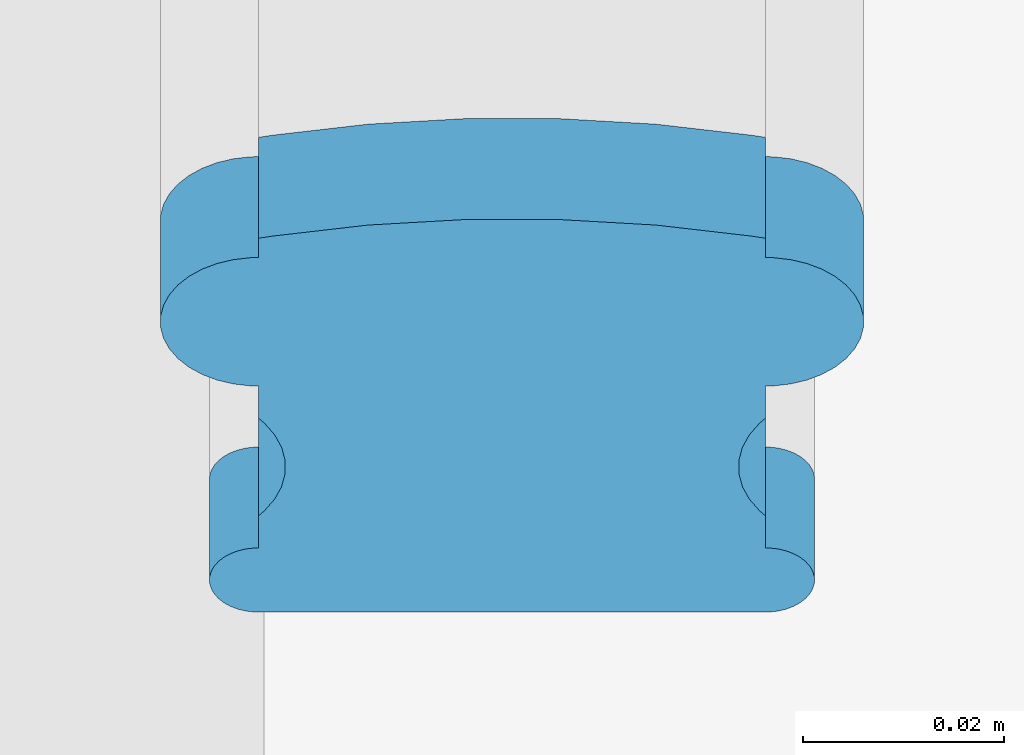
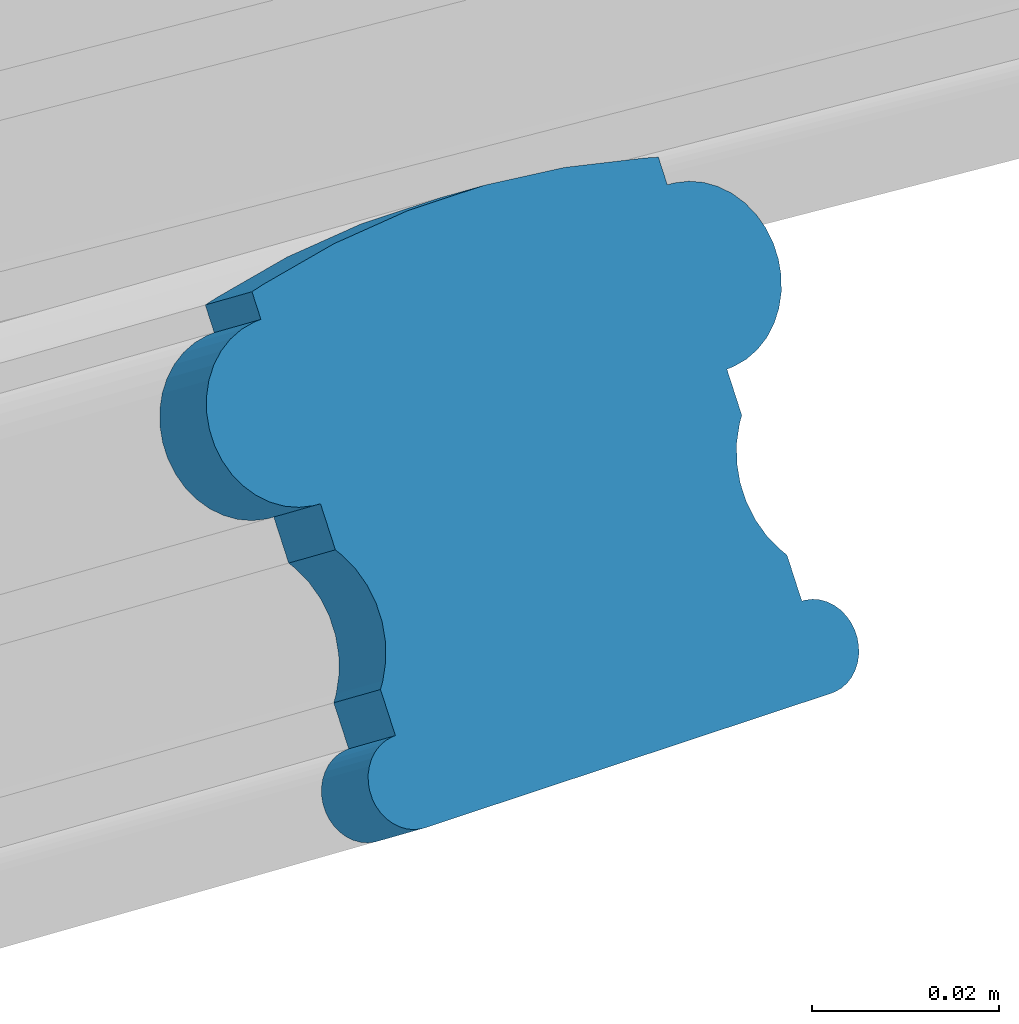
# One storey, part 19 of 77: 1 building element part, 1 element without a shape of its own.
"""IFC2X3 building model written with IfcOpenShell, lengths in inches."""

from ifc_helpers import new_model, entity, si_unit, converted_unit, derived_unit, money_unit, direction, frame, origin_with_axes, place, context, subcontext, project, spatial, faceted_brep, material, type_object, element, aggregate, save


model = new_model("IFC2X3")

# Units and contexts
model_context = context("Model", 3, precision=0.000393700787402, world=origin_with_axes(), true_north=direction((0.0, 1.0)))
body_context = subcontext(model_context, "Body", "Model", "MODEL_VIEW")
ifc_project = project(units=[converted_unit("LENGTHUNIT", "INCH", entity("IfcPositiveLengthMeasure", 0.0254), si_unit("LENGTHUNIT", "METRE"), dimensions=[1, 0, 0, 0, 0, 0, 0]), converted_unit("AREAUNIT", "SQUARE_FOOT", entity("IfcPositiveLengthMeasure", 0.09290304), si_unit("AREAUNIT", "SQUARE_METRE"), dimensions=[2, 0, 0, 0, 0, 0, 0]), si_unit("PLANEANGLEUNIT", "RADIAN"), si_unit("SOLIDANGLEUNIT", "STERADIAN"), money_unit("USD"), converted_unit("TIMEUNIT", "Year", entity("IfcTimeMeasure", 31556926.0), si_unit("TIMEUNIT", "SECOND"), dimensions=[0, 0, 1, 0, 0, 0, 0]), si_unit("MASSUNIT", "GRAM", prefix="KILO"), si_unit("THERMODYNAMICTEMPERATUREUNIT", "DEGREE_CELSIUS"), si_unit("LUMINOUSINTENSITYUNIT", "LUMEN"), si_unit("ENERGYUNIT", "JOULE", prefix="MEGA"), derived_unit("THERMALCONDUCTANCEUNIT", [(si_unit("POWERUNIT", "WATT"), 1), (si_unit("LENGTHUNIT", "METRE"), -1), (si_unit("THERMODYNAMICTEMPERATUREUNIT", "KELVIN"), -1)]), derived_unit("SPECIFICHEATCAPACITYUNIT", [(si_unit("ENERGYUNIT", "JOULE"), 1), (si_unit("MASSUNIT", "GRAM", prefix="KILO"), -1), (si_unit("THERMODYNAMICTEMPERATUREUNIT", "KELVIN"), -1)]), derived_unit("MASSDENSITYUNIT", [(si_unit("MASSUNIT", "GRAM", prefix="KILO"), 1), (si_unit("VOLUMEUNIT", "CUBIC_METRE"), -1)])], contexts=[model_context])

# Site, building, storey
site_placement = place(None, origin_with_axes())
site = spatial("IfcSite", under=ifc_project, at=site_placement, Name="Site", CompositionType="ELEMENT")
building_placement = place(site_placement, origin_with_axes())
building = spatial("IfcBuilding", under=site, at=building_placement, Name="Building", CompositionType="ELEMENT")
storey_placement = place(building_placement, frame((0.0, 0.0, 127.952755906), z_axis=(0.0, 0.0, 1.0), x_axis=(1.0, 0.0, 0.0)))
storey = spatial("IfcBuildingStorey", under=building, at=storey_placement, Name="Second Floor", CompositionType="ELEMENT", Elevation=127.953)

# Railing, building element part
railing_type = type_object("IfcRailingType", Name="Railing Type", PredefinedType="NOTDEFINED")
railing_placement = place(storey_placement, frame((643.989643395, 72.4015497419, -92.1176470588), z_axis=(0.0, 0.0, 1.0), x_axis=(-1.0, 0.0, 0.0)))
railing = element("IfcRailing", 1, at=railing_placement, inside=storey, type_object=railing_type, Name="RAILING - 001", PredefinedType="NOTDEFINED")
ifc_material = material(Name="Wood - Structural")
building_element_part_placement = place(railing_placement, origin_with_axes())
building_element_part = element("IfcBuildingElementPart", 2, at=building_element_part_placement, material=ifc_material, Name="Wood - Structural", context=body_context, shape_type="Brep", body=[
    faceted_brep([(-0.97830768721, 0.075407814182, 75.7856225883), (-0.97830768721, 0.150815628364, 75.6888922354), (-0.97830768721, 0.545149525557, 75.996302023), (-0.97830768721, 0.469741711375, 76.0930323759), (-1.03685591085, 0.0666488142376, 75.7968583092), (-1.40666376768, 0.0240545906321, 75.8514966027), (-1.78074756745, 0.00267612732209, 75.8789201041), (-2.15626030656, 0.00267612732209, 75.8789201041), (-2.53034410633, 0.0240545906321, 75.8514966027), (-2.90015196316, 0.0666488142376, 75.7968583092), (-2.95870018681, 0.0754078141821, 75.7856225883), (-2.95870018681, 0.150815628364, 75.6888922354), (-2.99223804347, 0.151772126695, 75.6876652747), (-3.05829472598, 0.159380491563, 75.6779055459), (-3.12132527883, 0.174366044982, 75.6586826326), (-3.17941455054, 0.196273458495, 75.6305806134), (-3.230797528, 0.224437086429, 75.5944533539), (-3.27391296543, 0.258001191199, 75.5513985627), (-3.30745082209, 0.295945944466, 75.5027244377), (-3.33039206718, 0.337118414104, 75.4499099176), (-3.34203964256, 0.380267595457, 75.3945597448), (-3.34203964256, 0.424082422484, 75.3383557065), (-3.33039206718, 0.467231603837, 75.2830055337), (-3.30745082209, 0.508404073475, 75.2301910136), (-3.27391296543, 0.546348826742, 75.1815168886), (-3.230797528, 0.579912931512, 75.1384620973), (-3.17941455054, 0.608076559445, 75.1023348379), (-3.12132527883, 0.629983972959, 75.0742328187), (-3.05829472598, 0.644969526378, 75.0550099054), (-2.99223804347, 0.652577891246, 75.0452501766), (-2.95870018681, 0.653534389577, 75.0440232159), (-2.95870018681, 0.77921407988, 74.8828059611), (-2.93612331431, 0.798547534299, 74.8580057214), (-2.89633013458, 0.843569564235, 74.8002531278), (-2.86910999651, 0.892421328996, 74.7375878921), (-2.85528997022, 0.943618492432, 74.6719140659), (-2.85528997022, 0.995605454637, 74.605227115), (-2.86910999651, 1.04680261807, 74.5395532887), (-2.89633013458, 1.09565438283, 74.4768880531), (-2.93612331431, 1.14067641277, 74.4191354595), (-2.95870018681, 1.16000986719, 74.3943352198), (-2.95870018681, 1.28568955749, 74.2331179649), (-2.97546911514, 1.28616780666, 74.2325044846), (-3.0084974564, 1.28997198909, 74.2276246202), (-3.04001273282, 1.2974647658, 74.2180131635), (-3.06905736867, 1.30841847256, 74.203962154), (-3.0947488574, 1.32250028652, 74.1858985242), (-3.11630657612, 1.33928233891, 74.1643711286), (-3.13307550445, 1.35825471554, 74.1400340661), (-3.14454612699, 1.37884095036, 74.113626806), (-3.15036991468, 1.40041554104, 74.0859517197), (-3.15036991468, 1.42232295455, 74.0578497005), (-3.14454612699, 1.44389754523, 74.0301746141), (-3.13307550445, 1.46448378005, 74.0037673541), (-3.11630657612, 1.48345615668, 73.9794302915), (-3.0947488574, 1.50023820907, 73.9579028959), (-3.06905736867, 1.51432002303, 73.9398392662), (-3.04001273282, 1.52527372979, 73.9257882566), (-3.0084974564, 1.5327665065, 73.9161768), (-2.97546911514, 1.53657068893, 73.9112969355), (-2.95870018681, 1.5370489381, 73.9106834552), (-0.97830768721, 1.5370489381, 73.9106834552), (-0.96153875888, 1.53657068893, 73.9112969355), (-0.92851041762, 1.5327665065, 73.9161768), (-0.896995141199, 1.52527372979, 73.9257882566), (-0.867950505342, 1.51432002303, 73.9398392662), (-0.842259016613, 1.50023820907, 73.9579028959), (-0.820701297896, 1.48345615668, 73.9794302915), (-0.803932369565, 1.46448378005, 74.0037673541), (-0.792461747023, 1.44389754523, 74.0301746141), (-0.786637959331, 1.42232295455, 74.0578497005), (-0.786637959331, 1.40041554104, 74.0859517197), (-0.792461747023, 1.37884095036, 74.113626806), (-0.803932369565, 1.35825471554, 74.1400340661), (-0.820701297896, 1.33928233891, 74.1643711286), (-0.842259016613, 1.32250028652, 74.1858985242), (-0.867950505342, 1.30841847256, 74.203962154), (-0.896995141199, 1.2974647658, 74.2180131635), (-0.92851041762, 1.28997198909, 74.2276246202), (-0.96153875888, 1.28616780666, 74.2325044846), (-0.97830768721, 1.28568955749, 74.2331179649), (-0.97830768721, 1.16000986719, 74.3943352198), (-1.00088455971, 1.14067641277, 74.4191354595), (-1.04067773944, 1.09565438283, 74.4768880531), (-1.06789787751, 1.04680261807, 74.5395532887), (-1.08171790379, 0.995605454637, 74.605227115), (-1.08171790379, 0.943618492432, 74.6719140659), (-1.06789787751, 0.892421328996, 74.7375878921), (-1.04067773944, 0.843569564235, 74.8002531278), (-1.00088455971, 0.798547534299, 74.8580057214), (-0.97830768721, 0.77921407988, 74.8828059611), (-0.97830768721, 0.653534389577, 75.0440232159), (-0.944769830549, 0.652577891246, 75.0452501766), (-0.878713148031, 0.644969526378, 75.0550099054), (-0.815682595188, 0.629983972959, 75.0742328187), (-0.757593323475, 0.608076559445, 75.1023348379), (-0.706210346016, 0.579912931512, 75.1384620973), (-0.663094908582, 0.546348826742, 75.1815168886), (-0.629557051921, 0.508404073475, 75.2301910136), (-0.606615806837, 0.467231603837, 75.2830055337), (-0.594968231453, 0.424082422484, 75.3383557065), (-0.594968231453, 0.380267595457, 75.3945597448), (-0.606615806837, 0.337118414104, 75.4499099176), (-0.629557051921, 0.295945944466, 75.5027244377), (-0.663094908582, 0.258001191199, 75.5513985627), (-0.706210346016, 0.224437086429, 75.5944533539), (-0.757593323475, 0.196273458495, 75.6305806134), (-0.815682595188, 0.174366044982, 75.6586826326), (-0.878713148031, 0.159380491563, 75.6779055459), (-0.944769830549, 0.151772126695, 75.6876652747), (-0.944769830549, 0.546106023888, 75.9950750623), (-0.878713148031, 0.553714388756, 75.9853153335), (-0.815682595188, 0.568699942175, 75.9660924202), (-0.757593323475, 0.590607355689, 75.937990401), (-0.706210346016, 0.618770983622, 75.9018631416), (-0.663094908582, 0.652335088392, 75.8588083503), (-0.629557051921, 0.69027984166, 75.8101342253), (-0.606615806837, 0.731452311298, 75.7573197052), (-0.594968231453, 0.77460149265, 75.7019695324), (-0.594968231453, 0.818416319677, 75.6457654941), (-0.606615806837, 0.86156550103, 75.5904153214), (-0.629557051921, 0.902737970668, 75.5376008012), (-0.663094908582, 0.940682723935, 75.4889266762), (-0.706210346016, 0.974246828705, 75.445871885), (-0.757593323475, 1.00241045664, 75.4097446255), (-0.815682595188, 1.02431787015, 75.3816426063), (-0.878713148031, 1.03930342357, 75.362419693), (-0.944769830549, 1.04691178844, 75.3526599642), (-0.97830768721, 1.04786828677, 75.3514330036), (-0.97830768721, 1.17354797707, 75.1902157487), (-1.00088455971, 1.19288143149, 75.165415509), (-1.04067773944, 1.23790346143, 75.1076629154), (-1.06789787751, 1.28675522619, 75.0449976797), (-1.08171790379, 1.33795238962, 74.9793238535), (-1.08171790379, 1.38993935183, 74.9126369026), (-1.06789787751, 1.44113651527, 74.8469630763), (-1.04067773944, 1.48998828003, 74.7842978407), (-1.00088455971, 1.53501030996, 74.7265452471), (-0.97830768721, 1.55434376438, 74.7017450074), (-0.97830768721, 1.68002345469, 74.5405277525), (-0.96153875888, 1.68050170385, 74.5399142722), (-0.92851041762, 1.68430588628, 74.5350344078), (-0.896995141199, 1.69179866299, 74.5254229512), (-0.867950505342, 1.70275236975, 74.5113719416), (-0.842259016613, 1.71683418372, 74.4933083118), (-0.820701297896, 1.7336162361, 74.4717809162), (-0.803932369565, 1.75258861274, 74.4474438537), (-0.792461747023, 1.77317484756, 74.4210365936), (-0.786637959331, 1.79474943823, 74.3933615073), (-0.786637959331, 1.81665685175, 74.3652594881), (-0.792461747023, 1.83823144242, 74.3375844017), (-0.803932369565, 1.85881767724, 74.3111771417), (-0.820701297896, 1.87779005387, 74.2868400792), (-0.842259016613, 1.89457210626, 74.2653126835), (-0.867950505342, 1.90865392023, 74.2472490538), (-0.896995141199, 1.91960762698, 74.2331980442), (-0.92851041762, 1.92710040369, 74.2235865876), (-0.96153875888, 1.93090458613, 74.2187067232), (-0.97830768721, 1.93138283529, 74.2180932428), (-2.95870018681, 1.93138283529, 74.2180932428), (-2.97546911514, 1.93090458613, 74.2187067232), (-3.00849745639, 1.92710040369, 74.2235865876), (-3.04001273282, 1.91960762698, 74.2331980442), (-3.06905736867, 1.90865392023, 74.2472490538), (-3.0947488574, 1.89457210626, 74.2653126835), (-3.11630657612, 1.87779005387, 74.2868400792), (-3.13307550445, 1.85881767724, 74.3111771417), (-3.14454612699, 1.83823144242, 74.3375844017), (-3.15036991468, 1.81665685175, 74.3652594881), (-3.15036991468, 1.79474943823, 74.3933615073), (-3.14454612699, 1.77317484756, 74.4210365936), (-3.13307550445, 1.75258861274, 74.4474438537), (-3.11630657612, 1.7336162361, 74.4717809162), (-3.0947488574, 1.71683418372, 74.4933083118), (-3.06905736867, 1.70275236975, 74.5113719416), (-3.04001273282, 1.69179866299, 74.5254229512), (-3.00849745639, 1.68430588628, 74.5350344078), (-2.97546911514, 1.68050170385, 74.5399142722), (-2.95870018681, 1.68002345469, 74.5405277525), (-2.95870018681, 1.55434376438, 74.7017450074), (-2.93612331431, 1.53501030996, 74.7265452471), (-2.89633013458, 1.48998828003, 74.7842978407), (-2.86910999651, 1.44113651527, 74.8469630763), (-2.85528997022, 1.38993935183, 74.9126369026), (-2.85528997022, 1.33795238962, 74.9793238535), (-2.86910999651, 1.28675522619, 75.0449976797), (-2.89633013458, 1.23790346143, 75.1076629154), (-2.93612331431, 1.19288143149, 75.165415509), (-2.95870018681, 1.17354797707, 75.1902157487), (-2.95870018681, 1.04786828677, 75.3514330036), (-2.99223804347, 1.04691178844, 75.3526599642), (-3.05829472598, 1.03930342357, 75.362419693), (-3.12132527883, 1.02431787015, 75.3816426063), (-3.17941455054, 1.00241045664, 75.4097446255), (-3.230797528, 0.974246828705, 75.445871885), (-3.27391296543, 0.940682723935, 75.4889266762), (-3.30745082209, 0.902737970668, 75.5376008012), (-3.33039206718, 0.86156550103, 75.5904153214), (-3.34203964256, 0.818416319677, 75.6457654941), (-3.34203964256, 0.77460149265, 75.7019695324), (-3.33039206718, 0.731452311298, 75.7573197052), (-3.30745082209, 0.69027984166, 75.8101342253), (-3.27391296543, 0.652335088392, 75.8588083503), (-3.230797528, 0.618770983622, 75.9018631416), (-3.17941455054, 0.590607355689, 75.937990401), (-3.12132527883, 0.568699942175, 75.9660924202), (-3.05829472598, 0.553714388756, 75.9853153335), (-2.99223804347, 0.546106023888, 75.9950750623), (-2.95870018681, 0.545149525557, 75.996302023), (-2.95870018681, 0.469741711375, 76.0930323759), (-2.90015196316, 0.460982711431, 76.1042680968), (-2.53034410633, 0.418388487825, 76.1589063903), (-2.15626030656, 0.397010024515, 76.1863298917), (-1.78074756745, 0.397010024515, 76.1863298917), (-1.40666376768, 0.418388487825, 76.1589063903), (-1.03685591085, 0.460982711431, 76.1042680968)], [[[0, 1, 2, 3]], [[0, 4, 5, 6, 7, 8, 9, 10, 11, 12, 13, 14, 15, 16, 17, 18, 19, 20, 21, 22, 23, 24, 25, 26, 27, 28, 29, 30, 31, 32, 33, 34, 35, 36, 37, 38, 39, 40, 41, 42, 43, 44, 45, 46, 47, 48, 49, 50, 51, 52, 53, 54, 55, 56, 57, 58, 59, 60, 61, 62, 63, 64, 65, 66, 67, 68, 69, 70, 71, 72, 73, 74, 75, 76, 77, 78, 79, 80, 81, 82, 83, 84, 85, 86, 87, 88, 89, 90, 91, 92, 93, 94, 95, 96, 97, 98, 99, 100, 101, 102, 103, 104, 105, 106, 107, 108, 109, 1]], [[1, 109, 110, 2]], [[3, 2, 110, 111, 112, 113, 114, 115, 116, 117, 118, 119, 120, 121, 122, 123, 124, 125, 126, 127, 128, 129, 130, 131, 132, 133, 134, 135, 136, 137, 138, 139, 140, 141, 142, 143, 144, 145, 146, 147, 148, 149, 150, 151, 152, 153, 154, 155, 156, 157, 158, 159, 160, 161, 162, 163, 164, 165, 166, 167, 168, 169, 170, 171, 172, 173, 174, 175, 176, 177, 178, 179, 180, 181, 182, 183, 184, 185, 186, 187, 188, 189, 190, 191, 192, 193, 194, 195, 196, 197, 198, 199, 200, 201, 202, 203, 204, 205, 206, 207, 208, 209, 210, 211, 212, 213, 214, 215]], [[4, 0, 3, 215]], [[5, 4, 215, 214]], [[6, 5, 214, 213]], [[7, 6, 213, 212]], [[8, 7, 212, 211]], [[9, 8, 211, 210]], [[10, 9, 210, 209]], [[11, 10, 209, 208]], [[12, 11, 208, 207]], [[13, 12, 207, 206]], [[14, 13, 206, 205]], [[15, 14, 205, 204]], [[16, 15, 204, 203]], [[17, 16, 203, 202]], [[18, 17, 202, 201]], [[19, 18, 201, 200]], [[20, 19, 200, 199]], [[21, 20, 199, 198]], [[22, 21, 198, 197]], [[23, 22, 197, 196]], [[24, 23, 196, 195]], [[25, 24, 195, 194]], [[26, 25, 194, 193]], [[27, 26, 193, 192]], [[28, 27, 192, 191]], [[29, 28, 191, 190]], [[30, 29, 190, 189]], [[31, 30, 189, 188]], [[32, 31, 188, 187]], [[33, 32, 187, 186]], [[34, 33, 186, 185]], [[35, 34, 185, 184]], [[36, 35, 184, 183]], [[37, 36, 183, 182]], [[38, 37, 182, 181]], [[39, 38, 181, 180]], [[40, 39, 180, 179]], [[41, 40, 179, 178]], [[42, 41, 178, 177]], [[43, 42, 177, 176]], [[44, 43, 176, 175]], [[45, 44, 175, 174]], [[46, 45, 174, 173]], [[47, 46, 173, 172]], [[48, 47, 172, 171]], [[49, 48, 171, 170]], [[50, 49, 170, 169]], [[51, 50, 169, 168]], [[52, 51, 168, 167]], [[53, 52, 167, 166]], [[54, 53, 166, 165]], [[55, 54, 165, 164]], [[56, 55, 164, 163]], [[57, 56, 163, 162]], [[58, 57, 162, 161]], [[59, 58, 161, 160]], [[60, 59, 160, 159]], [[61, 60, 159, 158]], [[62, 61, 158, 157]], [[63, 62, 157, 156]], [[64, 63, 156, 155]], [[65, 64, 155, 154]], [[66, 65, 154, 153]], [[67, 66, 153, 152]], [[68, 67, 152, 151]], [[69, 68, 151, 150]], [[70, 69, 150, 149]], [[71, 70, 149, 148]], [[72, 71, 148, 147]], [[73, 72, 147, 146]], [[74, 73, 146, 145]], [[75, 74, 145, 144]], [[76, 75, 144, 143]], [[77, 76, 143, 142]], [[78, 77, 142, 141]], [[79, 78, 141, 140]], [[80, 79, 140, 139]], [[81, 80, 139, 138]], [[82, 81, 138, 137]], [[83, 82, 137, 136]], [[84, 83, 136, 135]], [[85, 84, 135, 134]], [[86, 85, 134, 133]], [[87, 86, 133, 132]], [[88, 87, 132, 131]], [[89, 88, 131, 130]], [[90, 89, 130, 129]], [[91, 90, 129, 128]], [[92, 91, 128, 127]], [[93, 92, 127, 126]], [[94, 93, 126, 125]], [[95, 94, 125, 124]], [[96, 95, 124, 123]], [[97, 96, 123, 122]], [[98, 97, 122, 121]], [[99, 98, 121, 120]], [[100, 99, 120, 119]], [[101, 100, 119, 118]], [[102, 101, 118, 117]], [[103, 102, 117, 116]], [[104, 103, 116, 115]], [[105, 104, 115, 114]], [[106, 105, 114, 113]], [[107, 106, 113, 112]], [[108, 107, 112, 111]], [[109, 108, 111, 110]]]),
])
aggregate(railing, [building_element_part])

save(model, "model.ifc")
